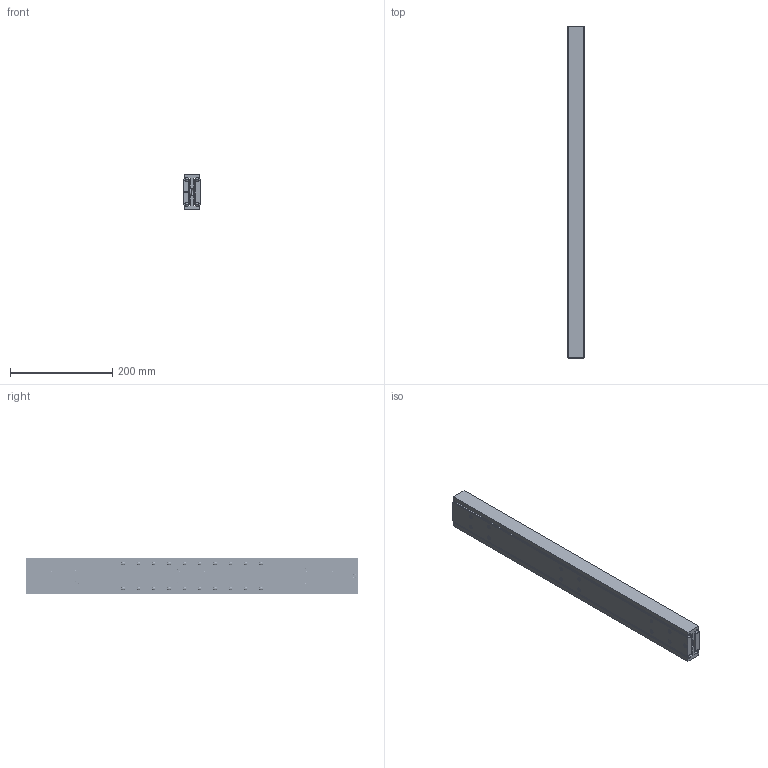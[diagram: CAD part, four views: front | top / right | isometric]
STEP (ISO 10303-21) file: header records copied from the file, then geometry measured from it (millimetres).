
FILE_DESCRIPTION(/* description */ (''),/* implementation_level */ '2;1');
FILE_NAME(/* name */ 'D:\Zeichnungen Schienen Komplett\MX-DTP70\MX-DTP70.065\MX-DTP70.065_eingefahren.step',/* time_stamp */ '2022-08-30T09:10:28+02:00',/* author */ ('zmile'),/* organization */ (''),/* preprocessor_version */ 'ST-DEVELOPER v16.13',/* originating_system */ 'AutoCAD Mechanical',/* authorisation */ '');
FILE_SCHEMA (('AUTOMOTIVE_DESIGN { 1 0 10303 214 3 1 1 }'));
Products named in the file (1): Product
Bounding box: 32 x 650 x 70 mm (x, y, z)
Volume: 1146332 mm3; surface area: 411761.4 mm2
Topology: 47 solids, 47 shells, 298 faces, 832 edges, 552 vertices
Faces by surface type: plane 86, bspline 86, cylinder 80, sphere 40, torus 6
Full cylindrical faces by diameter (mm): 9 x40, 13 x2
Entity records: 188313 total; most frequent: CARTESIAN_POINT 181527, ORIENTED_EDGE 1404, DIRECTION 1062, EDGE_CURVE 702, VERTEX_POINT 550, EDGE_LOOP 482, AXIS2_PLACEMENT_3D 425, FACE_OUTER_BOUND 298
